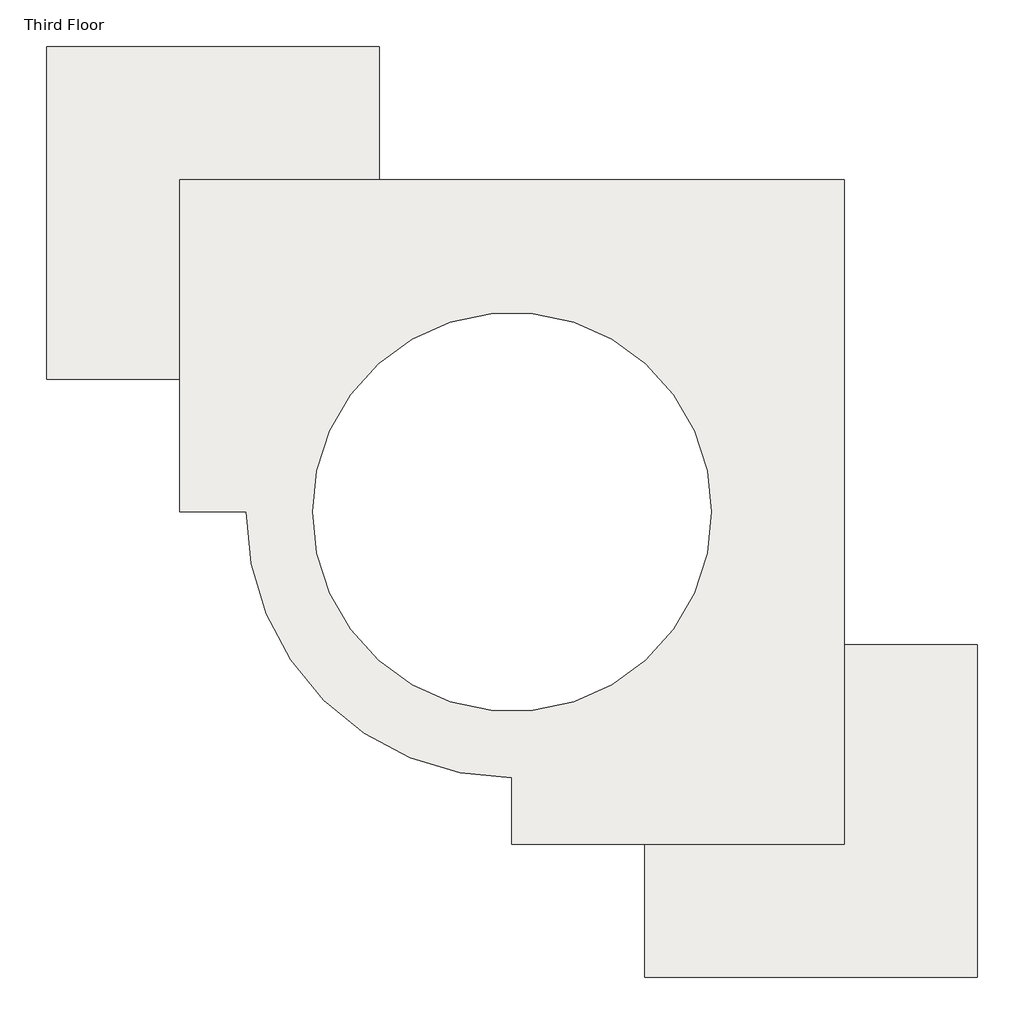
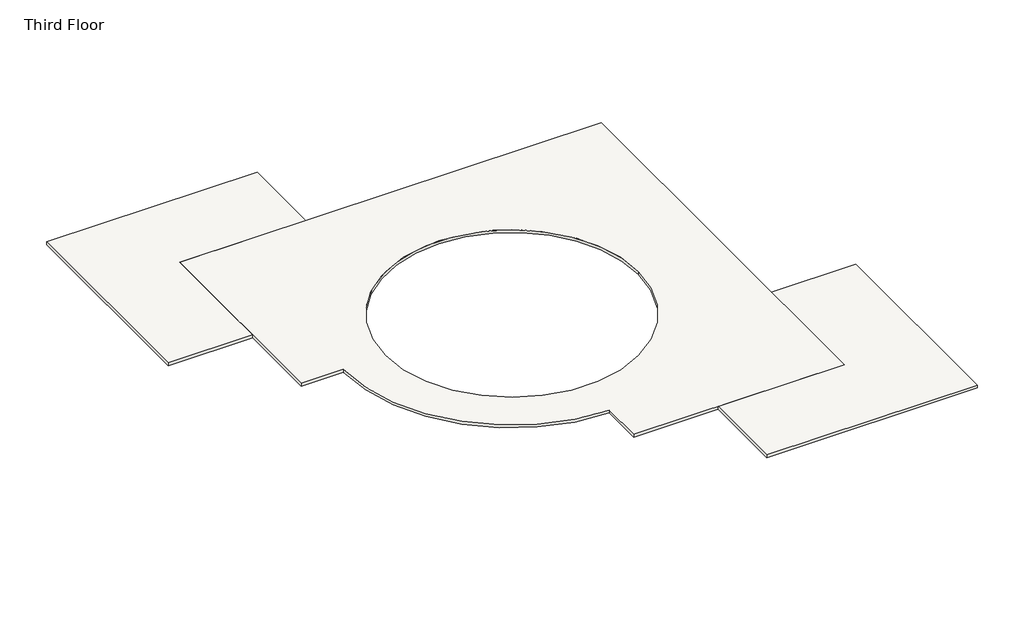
# One storey: 2 slabs.
"""IFC4 building model written with IfcOpenShell, lengths in millimetres."""

from ifc_helpers import new_model, si_unit, point, frame, frame_2d, origin, place, context, project, spatial, polyline, circle_curve, trimmed, segment, composite_curve, outline, extrude, element, save

model = new_model("IFC4")

# Units and contexts
model_context = context("Model", 3, world=origin())
ifc_project = project(units=[si_unit("LENGTHUNIT", "METRE", prefix="MILLI")], contexts=[model_context])

# Site, building, storey
site = spatial("IfcSite", under=ifc_project)
building = spatial("IfcBuilding", under=site)
storey = spatial("IfcBuildingStorey", under=building, Name="Third Floor", Elevation=6096.0)

# Slabs
placement = place(None, origin())
element("IfcSlab", 1, ObjectType="LW Concrete on Metal Deck", at=placement, inside=storey, context=model_context, shape_type="SweptSolid", body=[
    extrude(outline(composite_curve([segment(polyline([(3931.5112389, 11572.2454612), (3931.5112389, -3667.7545388), (-3688.4887611, -3667.7545388), (-3688.4887611, -2143.7545388)]), True, "CONTINUOUS"), segment(trimmed(circle_curve(frame_2d((-3688.4887611, 3952.2454612)), 6096.0), [point((-3688.4887611, -2143.7545388))], [point((-9784.4887611, 3952.2454612))], False, "CARTESIAN"), True, "CONTINUOUS"), segment(polyline([(-9784.4887611, 3952.2454612), (-11308.4887611, 3952.2454612), (-11308.4887611, 11572.2454612), (3931.5112389, 11572.2454612)]), True, "CONTINUOUS")], self_intersect=False), holes=[composite_curve([segment(trimmed(circle_curve(frame_2d((-3688.4887611, 3952.2454612)), 4572.0), [point((883.5112389, 3952.2454612))], [point((-8260.4887611, 3952.2454612))], True, "CARTESIAN"), True, "CONTINUOUS"), segment(trimmed(circle_curve(frame_2d((-3688.4887611, 3952.2454612)), 4572.0), [point((-8260.4887611, 3952.2454612))], [point((883.5112389, 3952.2454612))], True, "CARTESIAN"), True, "CONTINUOUS")], self_intersect=False)]), frame((0.0, 0.0, 5991.225), z_axis=(0.0, 0.0, 1.0), x_axis=(1.0, 0.0, 0.0)), (0.0, 0.0, 1.0), 104.775),
])
element("IfcSlab", 2, ObjectType="LW Concrete on Metal Deck", at=placement, inside=storey, context=model_context, shape_type="SweptSolid", body=[
    extrude(outline(polyline([(-6736.4887611, 14620.2454612), (-6736.4887611, 11572.2454612), (-11308.4887611, 11572.2454612), (-11308.4887611, 7000.2454612), (-14356.4887611, 7000.2454612), (-14356.4887611, 14620.2454612), (-6736.4887611, 14620.2454612)])), frame((0.0, 0.0, 5991.225), z_axis=(0.0, 0.0, 1.0), x_axis=(1.0, 0.0, 0.0)), (0.0, 0.0, 1.0), 104.775),
    extrude(outline(polyline([(6979.5112389, 904.2454612), (6979.5112389, -6715.7545388), (-640.4887611, -6715.7545388), (-640.4887611, -3667.7545388), (3931.5112389, -3667.7545388), (3931.5112389, 904.2454612), (6979.5112389, 904.2454612)])), frame((0.0, 0.0, 5991.225), z_axis=(0.0, 0.0, 1.0), x_axis=(1.0, 0.0, 0.0)), (0.0, 0.0, 1.0), 104.775),
])

save(model, "model.ifc")
